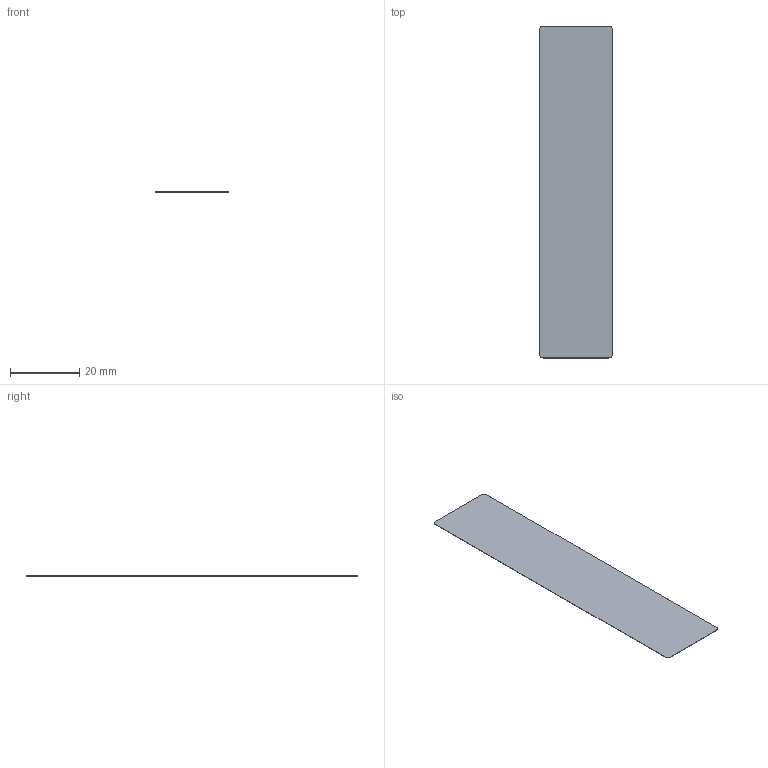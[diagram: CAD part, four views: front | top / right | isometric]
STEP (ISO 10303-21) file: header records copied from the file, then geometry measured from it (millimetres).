
FILE_DESCRIPTION(('Open CASCADE Model'),'2;1');
FILE_NAME('Open CASCADE Shape Model','2026-09-06T11:30:36',('Author'),( 'Open CASCADE'),'Open CASCADE STEP processor 7.7','Open CASCADE 7.7' ,'Unknown');
FILE_SCHEMA(('AUTOMOTIVE_DESIGN { 1 0 10303 214 1 1 1 1 }'));
Length unit declared in the file: millimetre
Products named in the file (1): Open CASCADE STEP translator 7.7 13
Bounding box: 21 x 96 x 0.1 mm (x, y, z)
Volume: 201.5 mm3; surface area: 4053.5 mm2
Topology: 1 solids, 1 shells, 10 faces, 24 edges, 16 vertices
Faces by surface type: plane 6, cylinder 4
Entity records: 630 total; most frequent: CARTESIAN_POINT 123, DIRECTION 98, LINE 56, VECTOR 56, ORIENTED_EDGE 48, PCURVE 48, DEFINITIONAL_REPRESENTATION 48, EDGE_CURVE 24
